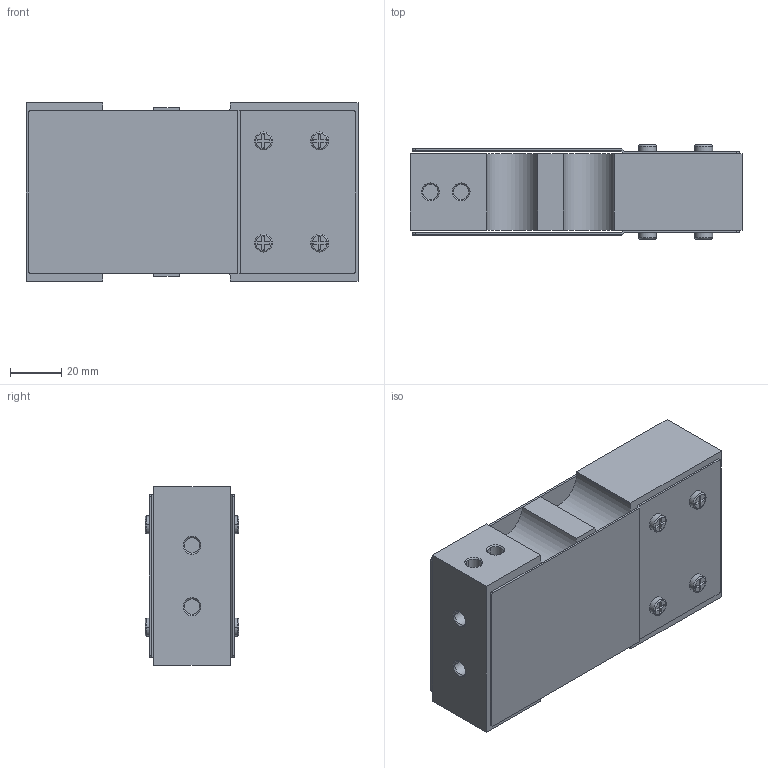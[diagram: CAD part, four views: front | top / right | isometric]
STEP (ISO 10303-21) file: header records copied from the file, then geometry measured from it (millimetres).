
FILE_DESCRIPTION((''),'1');
FILE_NAME('LCLJ_30-50_kg.step','2018-01-10T15:57:31',(''),(''),'','','');
FILE_SCHEMA(('AUTOMOTIVE_DESIGN { 1 0 10303 214 1 1 1 1 }'));
Products named in the file (13): LCLJ 30-50_kg; LCLJ body 01; LCLJ plate 01; LCLJ plate 02; LCLJ screw 01; LCLJ screw 02; LCLJ screw 03; LCLJ screw 04; LCLJ plate 04; LCLJ screw 05; LCLJ screw 06; LCLJ screw 07; LCLJ screw 08
Assembly tree (12 placements, depth 3):
  LCLJ 30-50_kg
    LCLJ body 01
    LCLJ plate 01
      LCLJ plate 02
      LCLJ screw 01
      LCLJ screw 02
      LCLJ screw 03
      LCLJ screw 04
      LCLJ plate 04
      LCLJ screw 05
      LCLJ screw 06
      LCLJ screw 07
      LCLJ screw 08
Bounding box: 130 x 36.8 x 70 mm (x, y, z)
Volume: 261293.5 mm3; surface area: 67184 mm2
Topology: 11 solids, 11 shells, 307 faces, 724 edges, 472 vertices
Faces by surface type: plane 179, cylinder 96, cone 16, torus 16
Entity records: 11685 total; most frequent: DIRECTION 1606, CARTESIAN_POINT 1517, ORIENTED_EDGE 1448, EDGE_CURVE 724, AXIS2_PLACEMENT_3D 561, LINE 484, VECTOR 484, VERTEX_POINT 472
